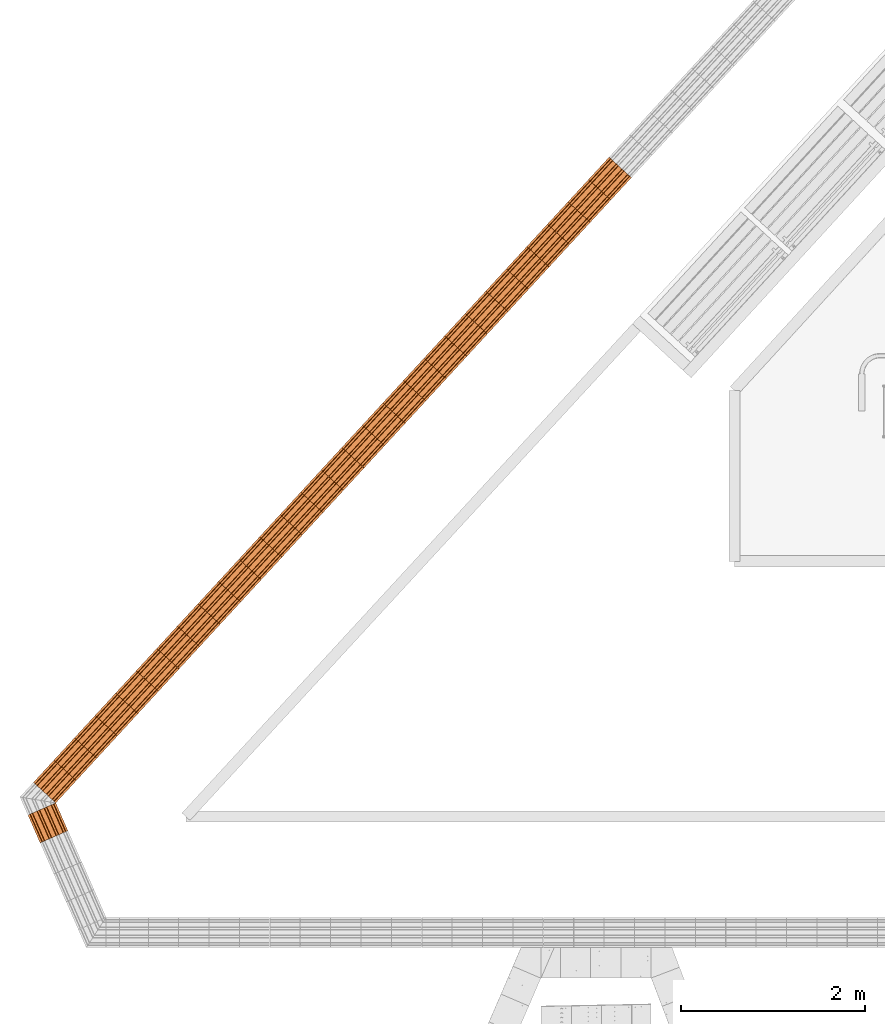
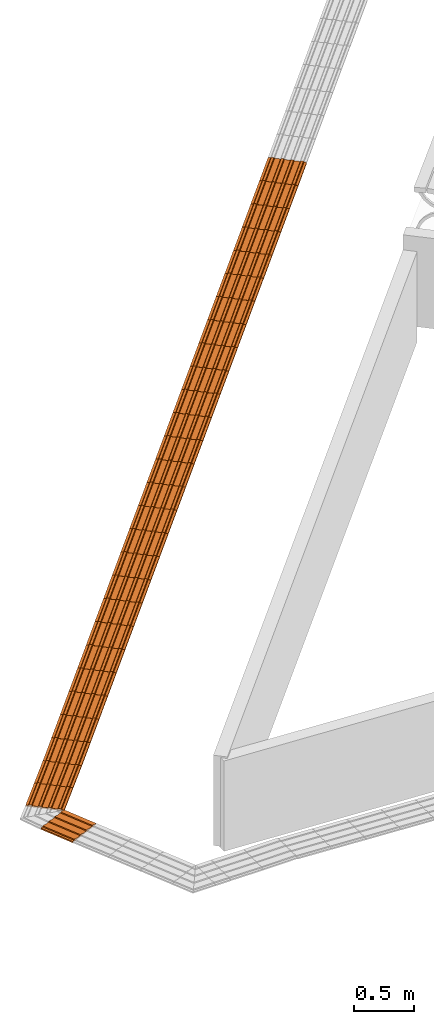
# One storey, part 163 of 237: 29 proxies.
"""IFC2X3 building model written with IfcOpenShell, lengths in millimetres."""

from ifc_helpers import new_model, entity, si_unit, converted_unit, derived_unit, money_unit, direction, frame, origin_with_axes, place, context, subcontext, project, spatial, open_shell, surface_model, source, transform, mapped, type_object, element, save


model = new_model("IFC2X3")

# Units and contexts
model_context = context("Model", 3, precision=0.01, world=origin_with_axes(), true_north=direction((0.0, 1.0)))
body_context = subcontext(model_context, "Body", "Model", "MODEL_VIEW")
ifc_project = project(units=[si_unit("LENGTHUNIT", "METRE", prefix="MILLI"), si_unit("AREAUNIT", "SQUARE_METRE"), si_unit("VOLUMEUNIT", "CUBIC_METRE"), converted_unit("PLANEANGLEUNIT", "DEGREE", entity("IfcPlaneAngleMeasure", 0.0174532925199), si_unit("PLANEANGLEUNIT", "RADIAN"), dimensions=[0, 0, 0, 0, 0, 0, 0]), money_unit("USD"), converted_unit("TIMEUNIT", "Year", entity("IfcTimeMeasure", 31556926.0), si_unit("TIMEUNIT", "SECOND"), dimensions=[0, 0, 1, 0, 0, 0, 0]), si_unit("MASSUNIT", "GRAM", prefix="KILO"), si_unit("THERMODYNAMICTEMPERATUREUNIT", "DEGREE_CELSIUS"), si_unit("LUMINOUSINTENSITYUNIT", "LUMEN"), si_unit("ENERGYUNIT", "JOULE", prefix="MEGA"), derived_unit("THERMALCONDUCTANCEUNIT", [(si_unit("POWERUNIT", "WATT"), 1), (si_unit("LENGTHUNIT", "METRE"), -1), (si_unit("THERMODYNAMICTEMPERATUREUNIT", "KELVIN"), -1)]), derived_unit("SPECIFICHEATCAPACITYUNIT", [(si_unit("ENERGYUNIT", "JOULE"), 1), (si_unit("MASSUNIT", "GRAM", prefix="KILO"), -1), (si_unit("THERMODYNAMICTEMPERATUREUNIT", "KELVIN"), -1)]), derived_unit("MASSDENSITYUNIT", [(si_unit("MASSUNIT", "GRAM", prefix="KILO"), 1), (si_unit("VOLUMEUNIT", "CUBIC_METRE"), -1)])], contexts=[model_context])

# Site, building, storey
site_placement = place(None, origin_with_axes())
site = spatial("IfcSite", under=ifc_project, at=site_placement, Name="Local", CompositionType="ELEMENT")
building_placement = place(site_placement, origin_with_axes())
building = spatial("IfcBuilding", under=site, at=building_placement, Name="Construção", CompositionType="ELEMENT")
storey_placement = place(building_placement, origin_with_axes())
storey = spatial("IfcBuildingStorey", under=building, at=storey_placement, Name="Pavimento Térreo", CompositionType="ELEMENT", Elevation=0.0)

# Proxies
building_element_proxy_type = type_object("IfcBuildingElementProxyType", Name="Piso Direcional 27", PredefinedType="NOTDEFINED")
shared_shape_1 = source(origin_with_axes(), body_context, "Body", "SurfaceModel", [
    surface_model("IfcShellBasedSurfaceModel", [(0.126538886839, -47.258225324, 4.02653266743), (329.963703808, -47.258225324, -6.33901782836), (330.173108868, -41.665004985, 0.32435924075), (0.33594394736, -41.665004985, 10.6899097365)], [open_shell([[[0, 1, 2, 3]]])]),
    surface_model("IfcShellBasedSurfaceModel", [(329.544893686, -153.529411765, -19.6657719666), (329.544893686, 176.470588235, -19.6657719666), (329.963703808, 176.470588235, -6.33901782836), (329.963703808, 154.097706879, -6.33901782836), (330.173108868, 148.50448654, 0.32435924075), (330.173108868, 126.131605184, 0.32435924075), (329.963703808, 120.538384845, -6.33901782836), (329.963703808, 70.1994017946, -6.33901782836), (330.173108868, 64.6061814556, 0.32435924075), (330.173108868, 42.2333000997, 0.32435924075), (329.963703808, 36.6400797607, -6.33901782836), (329.963703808, -13.6989032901, -6.33901782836), (330.173108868, -19.2921236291, 0.32435924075), (330.173108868, -41.665004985, 0.32435924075), (329.963703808, -47.258225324, -6.33901782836), (329.963703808, -97.5972083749, -6.33901782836), (330.173108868, -103.190428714, 0.32435924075), (330.173108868, -125.56331007, 0.32435924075), (329.963703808, -131.156530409, -6.33901782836), (329.963703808, -153.529411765, -6.33901782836)], [open_shell([[[0, 1, 2, 3, 4, 5, 6, 7, 8, 9, 10, 11, 12, 13, 14, 15, 16, 17, 18, 19]]])]),
    surface_model("IfcShellBasedSurfaceModel", [(0.33594394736, -19.2921236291, 10.6899097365), (330.173108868, -19.2921236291, 0.32435924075), (329.963703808, -13.6989032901, -6.33901782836), (0.126538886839, -13.6989032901, 4.02653266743)], [open_shell([[[0, 1, 2, 3]]])]),
    surface_model("IfcShellBasedSurfaceModel", [(0.33594394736, -103.190428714, 10.6899097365), (330.173108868, -103.190428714, 0.32435924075), (329.963703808, -97.5972083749, -6.33901782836), (0.126538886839, -97.5972083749, 4.02653266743)], [open_shell([[[0, 1, 2, 3]]])]),
    surface_model("IfcShellBasedSurfaceModel", [(0.33594394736, 64.6061814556, 10.6899097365), (330.173108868, 64.6061814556, 0.32435924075), (329.963703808, 70.1994017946, -6.33901782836), (0.126538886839, 70.1994017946, 4.02653266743)], [open_shell([[[0, 1, 2, 3]]])]),
    surface_model("IfcShellBasedSurfaceModel", [(0.126538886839, 36.6400797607, 4.02653266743), (329.963703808, 36.6400797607, -6.33901782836), (330.173108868, 42.2333000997, 0.32435924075), (0.33594394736, 42.2333000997, 10.6899097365)], [open_shell([[[0, 1, 2, 3]]])]),
    surface_model("IfcShellBasedSurfaceModel", [(0.126538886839, -131.156530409, 4.02653266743), (329.963703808, -131.156530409, -6.33901782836), (330.173108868, -125.56331007, 0.32435924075), (0.33594394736, -125.56331007, 10.6899097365)], [open_shell([[[0, 1, 2, 3]]])]),
    surface_model("IfcShellBasedSurfaceModel", [(0.126538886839, 176.470588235, 4.02653266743), (0.126538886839, 154.097706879, 4.02653266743), (329.963703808, 154.097706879, -6.33901782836), (329.963703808, 176.470588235, -6.33901782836)], [open_shell([[[0, 1, 2, 3]]])]),
    surface_model("IfcShellBasedSurfaceModel", [(0.126538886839, 120.538384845, 4.02653266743), (329.963703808, 120.538384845, -6.33901782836), (330.173108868, 126.131605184, 0.32435924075), (0.33594394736, 126.131605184, 10.6899097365)], [open_shell([[[0, 1, 2, 3]]])]),
    surface_model("IfcShellBasedSurfaceModel", [(0.33594394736, 148.50448654, 10.6899097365), (330.173108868, 148.50448654, 0.32435924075), (329.963703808, 154.097706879, -6.33901782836), (0.126538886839, 154.097706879, 4.02653266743)], [open_shell([[[0, 1, 2, 3]]])]),
    surface_model("IfcShellBasedSurfaceModel", [(0.126538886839, 36.6400797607, 4.02653266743), (0.126538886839, -13.6989032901, 4.02653266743), (329.963703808, -13.6989032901, -6.33901782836), (329.963703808, 36.6400797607, -6.33901782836)], [open_shell([[[0, 1, 2, 3]]])]),
    surface_model("IfcShellBasedSurfaceModel", [(0.126538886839, 120.538384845, 4.02653266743), (0.126538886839, 70.1994017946, 4.02653266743), (329.963703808, 70.1994017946, -6.33901782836), (329.963703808, 120.538384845, -6.33901782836)], [open_shell([[[0, 1, 2, 3]]])]),
    surface_model("IfcShellBasedSurfaceModel", [(0.33594394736, 148.50448654, 10.6899097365), (0.33594394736, 126.131605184, 10.6899097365), (330.173108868, 126.131605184, 0.32435924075), (330.173108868, 148.50448654, 0.32435924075)], [open_shell([[[0, 1, 2, 3]]])]),
    surface_model("IfcShellBasedSurfaceModel", [(0.126538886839, 120.538384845, 4.02653266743), (0.33594394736, 126.131605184, 10.6899097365), (0.33594394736, 148.50448654, 10.6899097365), (0.126538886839, 154.097706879, 4.02653266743), (0.126538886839, 176.470588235, 4.02653266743), (-0.292271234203, 176.470588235, -9.30022147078), (-0.292271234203, -153.529411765, -9.30022147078), (0.126538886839, -153.529411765, 4.02653266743), (0.126538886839, -131.156530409, 4.02653266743), (0.33594394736, -125.56331007, 10.6899097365), (0.33594394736, -103.190428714, 10.6899097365), (0.126538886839, -97.5972083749, 4.02653266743), (0.126538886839, -47.258225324, 4.02653266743), (0.33594394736, -41.665004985, 10.6899097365), (0.33594394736, -19.2921236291, 10.6899097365), (0.126538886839, -13.6989032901, 4.02653266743), (0.126538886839, 36.6400797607, 4.02653266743), (0.33594394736, 42.2333000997, 10.6899097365), (0.33594394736, 64.6061814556, 10.6899097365), (0.126538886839, 70.1994017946, 4.02653266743)], [open_shell([[[0, 1, 2, 3, 4, 5, 6, 7, 8, 9, 10, 11, 12, 13, 14, 15, 16, 17, 18, 19]]])]),
    surface_model("IfcShellBasedSurfaceModel", [(330.173108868, -41.665004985, 0.32435924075), (330.173108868, -19.2921236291, 0.32435924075), (0.33594394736, -19.2921236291, 10.6899097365), (0.33594394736, -41.665004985, 10.6899097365)], [open_shell([[[0, 1, 2, 3]]])]),
    surface_model("IfcShellBasedSurfaceModel", [(0.126538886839, -47.258225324, 4.02653266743), (0.126538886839, -97.5972083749, 4.02653266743), (329.963703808, -97.5972083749, -6.33901782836), (329.963703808, -47.258225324, -6.33901782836)], [open_shell([[[0, 1, 2, 3]]])]),
    surface_model("IfcShellBasedSurfaceModel", [(330.173108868, 42.2333000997, 0.32435924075), (330.173108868, 64.6061814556, 0.32435924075), (0.33594394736, 64.6061814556, 10.6899097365), (0.33594394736, 42.2333000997, 10.6899097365)], [open_shell([[[0, 1, 2, 3]]])]),
    surface_model("IfcShellBasedSurfaceModel", [(330.173108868, -125.56331007, 0.32435924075), (330.173108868, -103.190428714, 0.32435924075), (0.33594394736, -103.190428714, 10.6899097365), (0.33594394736, -125.56331007, 10.6899097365)], [open_shell([[[0, 1, 2, 3]]])]),
    surface_model("IfcShellBasedSurfaceModel", [(329.544893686, 176.470588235, -19.6657719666), (-0.292271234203, 176.470588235, -9.30022147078), (0.126538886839, 176.470588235, 4.02653266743), (329.963703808, 176.470588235, -6.33901782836)], [open_shell([[[0, 1, 2, 3]]])]),
    surface_model("IfcShellBasedSurfaceModel", [(329.544893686, -153.529411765, -19.6657719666), (-0.292271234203, -153.529411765, -9.30022147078), (-0.292271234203, 176.470588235, -9.30022147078), (329.544893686, 176.470588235, -19.6657719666)], [open_shell([[[0, 1, 2, 3]]])]),
    surface_model("IfcShellBasedSurfaceModel", [(329.963703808, -153.529411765, -6.33901782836), (329.963703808, -131.156530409, -6.33901782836), (0.126538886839, -131.156530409, 4.02653266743), (0.126538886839, -153.529411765, 4.02653266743)], [open_shell([[[0, 1, 2, 3]]])]),
    surface_model("IfcShellBasedSurfaceModel", [(-0.292271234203, -153.529411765, -9.30022147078), (329.544893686, -153.529411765, -19.6657719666), (329.963703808, -153.529411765, -6.33901782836), (0.126538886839, -153.529411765, 4.02653266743)], [open_shell([[[0, 1, 2, 3]]])]),
])
for number, where, z_axis, x_axis, name in (
    (1, (26863.6012622, 13324.3819816, -2365.85705908), (0.0, 0.0, 1.0), (-0.677327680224, -0.735681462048, 0.0), "Objeto-0055"),
    (2, (27087.4147511, 13567.4776642, -2355.00953602), (0.0, 0.0, 1.0), (-0.677327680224, -0.735681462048, 0.0), "Objeto-0055"),
    (3, (27311.22824, 13810.5733467, -2344.16201297), (0.0, 0.0, 1.0), (-0.677327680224, -0.735681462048, 0.0), "Objeto-0055"),
    (4, (27535.0417289, 14053.6690293, -2333.31448991), (0.0, 0.0, 1.0), (-0.677327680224, -0.735681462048, 0.0), "Objeto-0055"),
    (5, (27758.8552178, 14296.7647119, -2322.46696685), (0.0, 0.0, 1.0), (-0.677327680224, -0.735681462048, 0.0), "Objeto-0055"),
    (6, (27982.6687067, 14539.8603944, -2311.61944379), (0.0, 0.0, 1.0), (-0.677327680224, -0.735681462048, 0.0), "Objeto-0055"),
    (7, (28206.4821956, 14782.956077, -2300.77192074), (0.0, 0.0, 1.0), (-0.677327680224, -0.735681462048, 0.0), "Objeto-0055"),
    (8, (28430.2956845, 15026.0517596, -2289.92439768), (0.0, 0.0, 1.0), (-0.677327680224, -0.735681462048, 0.0), "Objeto-0055"),
    (9, (28654.1091734, 15269.1474421, -2279.07687462), (0.0, 0.0, 1.0), (-0.677327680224, -0.735681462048, 0.0), "Objeto-0055"),
    (10, (28877.9226623, 15512.2431247, -2268.22935156), (0.0, 0.0, 1.0), (-0.677327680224, -0.735681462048, 0.0), "Objeto-0055"),
    (11, (29101.3305041, 15754.8982124, -2257.86380107), (0.0, 0.0, 1.0), (-0.677327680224, -0.735681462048, 0.0), "Objeto-0055"),
    (12, (29772.7709708, 16484.1852601, -2225.3212319), (0.0, 0.0, 1.0), (-0.677327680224, -0.735681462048, 0.0), "Objeto-0055"),
    (13, (29996.5844597, 16727.2809427, -2214.47370884), (0.0, 0.0, 1.0), (-0.677327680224, -0.735681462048, 0.0), "Objeto-0055"),
    (14, (30220.3979486, 16970.3766253, -2203.62618578), (0.0, 0.0, 1.0), (-0.677327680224, -0.735681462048, 0.0), "Objeto-0055"),
    (15, (30444.2114375, 17213.4723078, -2192.77866272), (0.0, 0.0, 1.0), (-0.677327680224, -0.735681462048, 0.0), "Objeto-0055"),
    (16, (30668.0249264, 17456.5679904, -2181.93113967), (0.0, 0.0, 1.0), (-0.677327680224, -0.735681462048, 0.0), "Objeto-0055"),
    (17, (30891.8384153, 17699.663673, -2171.08361661), (0.0, 0.0, 1.0), (-0.677327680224, -0.735681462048, 0.0), "Objeto-0055"),
    (18, (31115.6519043, 17942.7593555, -2160.23609355), (0.0, 0.0, 1.0), (-0.677327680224, -0.735681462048, 0.0), "Objeto-0055"),
    (19, (31339.059746, 18185.4144433, -2152.24821236), (0.0, 0.0, 1.0), (-0.677327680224, -0.735681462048, 0.0), "Objeto-0055"),
    (20, (31562.8732349, 18428.5101258, -2141.4006893), (0.0, 0.0, 1.0), (-0.677327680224, -0.735681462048, 0.0), "Objeto-0055"),
    (21, (31786.6867238, 18671.6058084, -2130.55316624), (0.0, 0.0, 1.0), (-0.677327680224, -0.735681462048, 0.0), "Objeto-0055"),
    (22, (32010.5002127, 18914.701491, -2119.70564318), (0.0, 0.0, 1.0), (-0.677327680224, -0.735681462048, 0.0), "Objeto-0055"),
    (23, (29325.143993, 15997.993895, -2247.01627801), (0.0, 0.0, 1.0), (-0.677327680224, -0.735681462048, 0.0), "Objeto-0055"),
    (24, (32234.3137016, 19157.7971735, -2108.85812013), (0.0, 0.0, 1.0), (-0.677327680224, -0.735681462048, 0.0), "Objeto-0055"),
    (25, (26639.7877732, 13081.286299, -2376.70458214), (0.0, 0.0, 1.0), (-0.677327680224, -0.735681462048, 0.0), "Objeto-0055"),
    (26, (29548.9574819, 16241.0895776, -2236.16875495), (0.0, 0.0, 1.0), (-0.677327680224, -0.735681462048, 0.0), "Objeto-0055"),
):
    element("IfcBuildingElementProxy", number, at=place(storey_placement, frame(where, z_axis=z_axis, x_axis=x_axis)), inside=storey, type_object=building_element_proxy_type, Name=name, context=body_context, shape_type="MappedRepresentation", body=[
        mapped(shared_shape_1, transform((0.0, 0.0, 0.0))),
    ])
shared_shape_2 = source(origin_with_axes(), body_context, "Body", "SurfaceModel", [
    surface_model("IfcShellBasedSurfaceModel", [(0.0, -47.258225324, 4.02852049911), (330.0, -47.258225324, 4.02852049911), (330.0, -41.665004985, 10.6951871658), (0.0, -41.665004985, 10.6951871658)], [open_shell([[[0, 1, 2, 3]]])]),
    surface_model("IfcShellBasedSurfaceModel", [(330.0, -153.529411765, -9.30481283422), (330.0, 176.470588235, -9.30481283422), (330.0, 176.470588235, 4.02852049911), (330.0, 154.097706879, 4.02852049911), (330.0, 148.50448654, 10.6951871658), (330.0, 126.131605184, 10.6951871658), (330.0, 120.538384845, 4.02852049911), (330.0, 70.1994017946, 4.02852049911), (330.0, 64.6061814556, 10.6951871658), (330.0, 42.2333000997, 10.6951871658), (330.0, 36.6400797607, 4.02852049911), (330.0, -13.6989032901, 4.02852049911), (330.0, -19.2921236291, 10.6951871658), (330.0, -41.665004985, 10.6951871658), (330.0, -47.258225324, 4.02852049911), (330.0, -97.5972083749, 4.02852049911), (330.0, -103.190428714, 10.6951871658), (330.0, -125.56331007, 10.6951871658), (330.0, -131.156530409, 4.02852049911), (330.0, -153.529411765, 4.02852049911)], [open_shell([[[0, 1, 2, 3, 4, 5, 6, 7, 8, 9, 10, 11, 12, 13, 14, 15, 16, 17, 18, 19]]])]),
    surface_model("IfcShellBasedSurfaceModel", [(0.0, -19.2921236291, 10.6951871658), (330.0, -19.2921236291, 10.6951871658), (330.0, -13.6989032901, 4.02852049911), (0.0, -13.6989032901, 4.02852049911)], [open_shell([[[0, 1, 2, 3]]])]),
    surface_model("IfcShellBasedSurfaceModel", [(0.0, -103.190428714, 10.6951871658), (330.0, -103.190428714, 10.6951871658), (330.0, -97.5972083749, 4.02852049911), (0.0, -97.5972083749, 4.02852049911)], [open_shell([[[0, 1, 2, 3]]])]),
    surface_model("IfcShellBasedSurfaceModel", [(0.0, 64.6061814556, 10.6951871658), (330.0, 64.6061814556, 10.6951871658), (330.0, 70.1994017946, 4.02852049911), (0.0, 70.1994017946, 4.02852049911)], [open_shell([[[0, 1, 2, 3]]])]),
    surface_model("IfcShellBasedSurfaceModel", [(0.0, 36.6400797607, 4.02852049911), (330.0, 36.6400797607, 4.02852049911), (330.0, 42.2333000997, 10.6951871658), (0.0, 42.2333000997, 10.6951871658)], [open_shell([[[0, 1, 2, 3]]])]),
    surface_model("IfcShellBasedSurfaceModel", [(0.0, -131.156530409, 4.02852049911), (330.0, -131.156530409, 4.02852049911), (330.0, -125.56331007, 10.6951871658), (0.0, -125.56331007, 10.6951871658)], [open_shell([[[0, 1, 2, 3]]])]),
    surface_model("IfcShellBasedSurfaceModel", [(0.0, 176.470588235, 4.02852049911), (0.0, 154.097706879, 4.02852049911), (330.0, 154.097706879, 4.02852049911), (330.0, 176.470588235, 4.02852049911)], [open_shell([[[0, 1, 2, 3]]])]),
    surface_model("IfcShellBasedSurfaceModel", [(0.0, 120.538384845, 4.02852049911), (330.0, 120.538384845, 4.02852049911), (330.0, 126.131605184, 10.6951871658), (0.0, 126.131605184, 10.6951871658)], [open_shell([[[0, 1, 2, 3]]])]),
    surface_model("IfcShellBasedSurfaceModel", [(0.0, 148.50448654, 10.6951871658), (330.0, 148.50448654, 10.6951871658), (330.0, 154.097706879, 4.02852049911), (0.0, 154.097706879, 4.02852049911)], [open_shell([[[0, 1, 2, 3]]])]),
    surface_model("IfcShellBasedSurfaceModel", [(0.0, 36.6400797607, 4.02852049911), (0.0, -13.6989032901, 4.02852049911), (330.0, -13.6989032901, 4.02852049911), (330.0, 36.6400797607, 4.02852049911)], [open_shell([[[0, 1, 2, 3]]])]),
    surface_model("IfcShellBasedSurfaceModel", [(0.0, 120.538384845, 4.02852049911), (0.0, 70.1994017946, 4.02852049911), (330.0, 70.1994017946, 4.02852049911), (330.0, 120.538384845, 4.02852049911)], [open_shell([[[0, 1, 2, 3]]])]),
    surface_model("IfcShellBasedSurfaceModel", [(0.0, 148.50448654, 10.6951871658), (0.0, 126.131605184, 10.6951871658), (330.0, 126.131605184, 10.6951871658), (330.0, 148.50448654, 10.6951871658)], [open_shell([[[0, 1, 2, 3]]])]),
    surface_model("IfcShellBasedSurfaceModel", [(0.0, 120.538384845, 4.02852049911), (0.0, 126.131605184, 10.6951871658), (0.0, 148.50448654, 10.6951871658), (0.0, 154.097706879, 4.02852049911), (0.0, 176.470588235, 4.02852049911), (0.0, 176.470588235, -9.30481283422), (0.0, -153.529411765, -9.30481283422), (0.0, -153.529411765, 4.02852049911), (0.0, -131.156530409, 4.02852049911), (0.0, -125.56331007, 10.6951871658), (0.0, -103.190428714, 10.6951871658), (0.0, -97.5972083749, 4.02852049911), (0.0, -47.258225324, 4.02852049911), (0.0, -41.665004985, 10.6951871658), (0.0, -19.2921236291, 10.6951871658), (0.0, -13.6989032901, 4.02852049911), (0.0, 36.6400797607, 4.02852049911), (0.0, 42.2333000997, 10.6951871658), (0.0, 64.6061814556, 10.6951871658), (0.0, 70.1994017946, 4.02852049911)], [open_shell([[[0, 1, 2, 3, 4, 5, 6, 7, 8, 9, 10, 11, 12, 13, 14, 15, 16, 17, 18, 19]]])]),
    surface_model("IfcShellBasedSurfaceModel", [(330.0, -41.665004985, 10.6951871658), (330.0, -19.2921236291, 10.6951871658), (0.0, -19.2921236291, 10.6951871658), (0.0, -41.665004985, 10.6951871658)], [open_shell([[[0, 1, 2, 3]]])]),
    surface_model("IfcShellBasedSurfaceModel", [(0.0, -47.258225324, 4.02852049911), (0.0, -97.5972083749, 4.02852049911), (330.0, -97.5972083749, 4.02852049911), (330.0, -47.258225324, 4.02852049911)], [open_shell([[[0, 1, 2, 3]]])]),
    surface_model("IfcShellBasedSurfaceModel", [(330.0, 42.2333000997, 10.6951871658), (330.0, 64.6061814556, 10.6951871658), (0.0, 64.6061814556, 10.6951871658), (0.0, 42.2333000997, 10.6951871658)], [open_shell([[[0, 1, 2, 3]]])]),
    surface_model("IfcShellBasedSurfaceModel", [(330.0, -125.56331007, 10.6951871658), (330.0, -103.190428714, 10.6951871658), (0.0, -103.190428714, 10.6951871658), (0.0, -125.56331007, 10.6951871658)], [open_shell([[[0, 1, 2, 3]]])]),
    surface_model("IfcShellBasedSurfaceModel", [(330.0, 176.470588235, -9.30481283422), (0.0, 176.470588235, -9.30481283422), (0.0, 176.470588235, 4.02852049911), (330.0, 176.470588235, 4.02852049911)], [open_shell([[[0, 1, 2, 3]]])]),
    surface_model("IfcShellBasedSurfaceModel", [(330.0, -153.529411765, -9.30481283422), (0.0, -153.529411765, -9.30481283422), (0.0, 176.470588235, -9.30481283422), (330.0, 176.470588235, -9.30481283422)], [open_shell([[[0, 1, 2, 3]]])]),
    surface_model("IfcShellBasedSurfaceModel", [(330.0, -153.529411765, 4.02852049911), (330.0, -131.156530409, 4.02852049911), (0.0, -131.156530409, 4.02852049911), (0.0, -153.529411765, 4.02852049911)], [open_shell([[[0, 1, 2, 3]]])]),
    surface_model("IfcShellBasedSurfaceModel", [(0.0, -153.529411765, -9.30481283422), (330.0, -153.529411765, -9.30481283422), (330.0, -153.529411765, 4.02852049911), (0.0, -153.529411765, 4.02852049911)], [open_shell([[[0, 1, 2, 3]]])]),
])
proxy_placement = place(storey_placement, frame((26090.4728744, 11869.4528403, -2385.08199458), z_axis=(0.0, 0.0, 1.0), x_axis=(-0.40058928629, 0.916257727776, 0.0)))
element("IfcBuildingElementProxy", 27, at=proxy_placement, inside=storey, type_object=building_element_proxy_type, Name="Objeto-0055", context=body_context, shape_type="MappedRepresentation", body=[
    mapped(shared_shape_2, transform((0.0, 0.0, 0.0))),
])
shared_shape_3 = source(origin_with_axes(), body_context, "Body", "SurfaceModel", [
    surface_model("IfcShellBasedSurfaceModel", [(0.0070310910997, -47.258225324, 4.02851436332), (330.006528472, -47.258225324, 3.45255600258), (330.018163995, -41.665004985, 10.1192125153), (0.018666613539, -41.665004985, 10.6951708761)], [open_shell([[[0, 1, 2, 3]]])]),
    surface_model("IfcShellBasedSurfaceModel", [(329.983257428, -153.529411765, -9.88075702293), (329.983257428, 176.470588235, -9.88075702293), (330.006528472, 176.470588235, 3.45255600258), (330.006528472, 154.097706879, 3.45255600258), (330.018163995, 148.50448654, 10.1192125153), (330.018163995, 126.131605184, 10.1192125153), (330.006528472, 120.538384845, 3.45255600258), (330.006528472, 70.1994017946, 3.45255600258), (330.018163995, 64.6061814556, 10.1192125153), (330.018163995, 42.2333000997, 10.1192125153), (330.006528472, 36.6400797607, 3.45255600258), (330.006528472, -13.6989032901, 3.45255600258), (330.018163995, -19.2921236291, 10.1192125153), (330.018163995, -41.665004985, 10.1192125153), (330.006528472, -47.258225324, 3.45255600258), (330.006528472, -97.5972083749, 3.45255600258), (330.018163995, -103.190428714, 10.1192125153), (330.018163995, -125.56331007, 10.1192125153), (330.006528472, -131.156530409, 3.45255600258), (330.006528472, -153.529411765, 3.45255600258)], [open_shell([[[0, 1, 2, 3, 4, 5, 6, 7, 8, 9, 10, 11, 12, 13, 14, 15, 16, 17, 18, 19]]])]),
    surface_model("IfcShellBasedSurfaceModel", [(0.018666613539, -19.2921236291, 10.6951708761), (330.018163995, -19.2921236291, 10.1192125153), (330.006528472, -13.6989032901, 3.45255600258), (0.0070310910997, -13.6989032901, 4.02851436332)], [open_shell([[[0, 1, 2, 3]]])]),
    surface_model("IfcShellBasedSurfaceModel", [(0.018666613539, -103.190428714, 10.6951708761), (330.018163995, -103.190428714, 10.1192125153), (330.006528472, -97.5972083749, 3.45255600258), (0.0070310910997, -97.5972083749, 4.02851436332)], [open_shell([[[0, 1, 2, 3]]])]),
    surface_model("IfcShellBasedSurfaceModel", [(0.018666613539, 64.6061814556, 10.6951708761), (330.018163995, 64.6061814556, 10.1192125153), (330.006528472, 70.1994017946, 3.45255600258), (0.0070310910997, 70.1994017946, 4.02851436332)], [open_shell([[[0, 1, 2, 3]]])]),
    surface_model("IfcShellBasedSurfaceModel", [(0.0070310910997, 36.6400797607, 4.02851436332), (330.006528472, 36.6400797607, 3.45255600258), (330.018163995, 42.2333000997, 10.1192125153), (0.018666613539, 42.2333000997, 10.6951708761)], [open_shell([[[0, 1, 2, 3]]])]),
    surface_model("IfcShellBasedSurfaceModel", [(0.0070310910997, -131.156530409, 4.02851436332), (330.006528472, -131.156530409, 3.45255600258), (330.018163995, -125.56331007, 10.1192125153), (0.018666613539, -125.56331007, 10.6951708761)], [open_shell([[[0, 1, 2, 3]]])]),
    surface_model("IfcShellBasedSurfaceModel", [(0.0070310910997, 176.470588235, 4.02851436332), (0.0070310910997, 154.097706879, 4.02851436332), (330.006528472, 154.097706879, 3.45255600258), (330.006528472, 176.470588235, 3.45255600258)], [open_shell([[[0, 1, 2, 3]]])]),
    surface_model("IfcShellBasedSurfaceModel", [(0.0070310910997, 120.538384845, 4.02851436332), (330.006528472, 120.538384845, 3.45255600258), (330.018163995, 126.131605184, 10.1192125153), (0.018666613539, 126.131605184, 10.6951708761)], [open_shell([[[0, 1, 2, 3]]])]),
    surface_model("IfcShellBasedSurfaceModel", [(0.018666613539, 148.50448654, 10.6951708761), (330.018163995, 148.50448654, 10.1192125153), (330.006528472, 154.097706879, 3.45255600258), (0.0070310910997, 154.097706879, 4.02851436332)], [open_shell([[[0, 1, 2, 3]]])]),
    surface_model("IfcShellBasedSurfaceModel", [(0.0070310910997, 36.6400797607, 4.02851436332), (0.0070310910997, -13.6989032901, 4.02851436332), (330.006528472, -13.6989032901, 3.45255600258), (330.006528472, 36.6400797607, 3.45255600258)], [open_shell([[[0, 1, 2, 3]]])]),
    surface_model("IfcShellBasedSurfaceModel", [(0.0070310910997, 120.538384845, 4.02851436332), (0.0070310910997, 70.1994017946, 4.02851436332), (330.006528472, 70.1994017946, 3.45255600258), (330.006528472, 120.538384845, 3.45255600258)], [open_shell([[[0, 1, 2, 3]]])]),
    surface_model("IfcShellBasedSurfaceModel", [(0.018666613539, 148.50448654, 10.6951708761), (0.018666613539, 126.131605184, 10.6951708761), (330.018163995, 126.131605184, 10.1192125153), (330.018163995, 148.50448654, 10.1192125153)], [open_shell([[[0, 1, 2, 3]]])]),
    surface_model("IfcShellBasedSurfaceModel", [(0.0070310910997, 120.538384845, 4.02851436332), (0.018666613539, 126.131605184, 10.6951708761), (0.018666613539, 148.50448654, 10.6951708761), (0.0070310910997, 154.097706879, 4.02851436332), (0.0070310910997, 176.470588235, 4.02851436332), (-0.0162399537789, 176.470588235, -9.30479866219), (-0.0162399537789, -153.529411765, -9.30479866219), (0.0070310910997, -153.529411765, 4.02851436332), (0.0070310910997, -131.156530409, 4.02851436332), (0.018666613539, -125.56331007, 10.6951708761), (0.018666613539, -103.190428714, 10.6951708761), (0.0070310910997, -97.5972083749, 4.02851436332), (0.0070310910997, -47.258225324, 4.02851436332), (0.018666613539, -41.665004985, 10.6951708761), (0.018666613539, -19.2921236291, 10.6951708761), (0.0070310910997, -13.6989032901, 4.02851436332), (0.0070310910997, 36.6400797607, 4.02851436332), (0.018666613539, 42.2333000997, 10.6951708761), (0.018666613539, 64.6061814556, 10.6951708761), (0.0070310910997, 70.1994017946, 4.02851436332)], [open_shell([[[0, 1, 2, 3, 4, 5, 6, 7, 8, 9, 10, 11, 12, 13, 14, 15, 16, 17, 18, 19]]])]),
    surface_model("IfcShellBasedSurfaceModel", [(330.018163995, -41.665004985, 10.1192125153), (330.018163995, -19.2921236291, 10.1192125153), (0.018666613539, -19.2921236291, 10.6951708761), (0.018666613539, -41.665004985, 10.6951708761)], [open_shell([[[0, 1, 2, 3]]])]),
    surface_model("IfcShellBasedSurfaceModel", [(0.0070310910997, -47.258225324, 4.02851436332), (0.0070310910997, -97.5972083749, 4.02851436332), (330.006528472, -97.5972083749, 3.45255600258), (330.006528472, -47.258225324, 3.45255600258)], [open_shell([[[0, 1, 2, 3]]])]),
    surface_model("IfcShellBasedSurfaceModel", [(330.018163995, 42.2333000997, 10.1192125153), (330.018163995, 64.6061814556, 10.1192125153), (0.018666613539, 64.6061814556, 10.6951708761), (0.018666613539, 42.2333000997, 10.6951708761)], [open_shell([[[0, 1, 2, 3]]])]),
    surface_model("IfcShellBasedSurfaceModel", [(330.018163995, -125.56331007, 10.1192125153), (330.018163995, -103.190428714, 10.1192125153), (0.018666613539, -103.190428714, 10.6951708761), (0.018666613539, -125.56331007, 10.6951708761)], [open_shell([[[0, 1, 2, 3]]])]),
    surface_model("IfcShellBasedSurfaceModel", [(329.983257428, 176.470588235, -9.88075702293), (-0.0162399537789, 176.470588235, -9.30479866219), (0.0070310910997, 176.470588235, 4.02851436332), (330.006528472, 176.470588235, 3.45255600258)], [open_shell([[[0, 1, 2, 3]]])]),
    surface_model("IfcShellBasedSurfaceModel", [(329.983257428, -153.529411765, -9.88075702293), (-0.0162399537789, -153.529411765, -9.30479866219), (-0.0162399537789, 176.470588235, -9.30479866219), (329.983257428, 176.470588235, -9.88075702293)], [open_shell([[[0, 1, 2, 3]]])]),
    surface_model("IfcShellBasedSurfaceModel", [(330.006528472, -153.529411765, 3.45255600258), (330.006528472, -131.156530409, 3.45255600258), (0.0070310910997, -131.156530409, 4.02851436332), (0.0070310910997, -153.529411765, 4.02851436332)], [open_shell([[[0, 1, 2, 3]]])]),
    surface_model("IfcShellBasedSurfaceModel", [(-0.0162399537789, -153.529411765, -9.30479866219), (329.983257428, -153.529411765, -9.88075702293), (330.006528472, -153.529411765, 3.45255600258), (0.0070310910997, -153.529411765, 4.02851436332)], [open_shell([[[0, 1, 2, 3]]])]),
])
for number, where, z_axis, x_axis, name in (
    (28, (26416.1629213, 12838.3955051, -2385.29101053), (0.0, 0.0, 1.0), (-0.677327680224, -0.735681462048, 0.0), "Objeto-0055"),
    (29, (26192.6451273, 12595.6209924, -2385.86696889), (0.0, 0.0, 1.0), (-0.677327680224, -0.735681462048, 0.0), "Objeto-0055"),
):
    element("IfcBuildingElementProxy", number, at=place(storey_placement, frame(where, z_axis=z_axis, x_axis=x_axis)), inside=storey, type_object=building_element_proxy_type, Name=name, context=body_context, shape_type="MappedRepresentation", body=[
        mapped(shared_shape_3, transform((0.0, 0.0, 0.0))),
    ])

save(model, "model.ifc")
